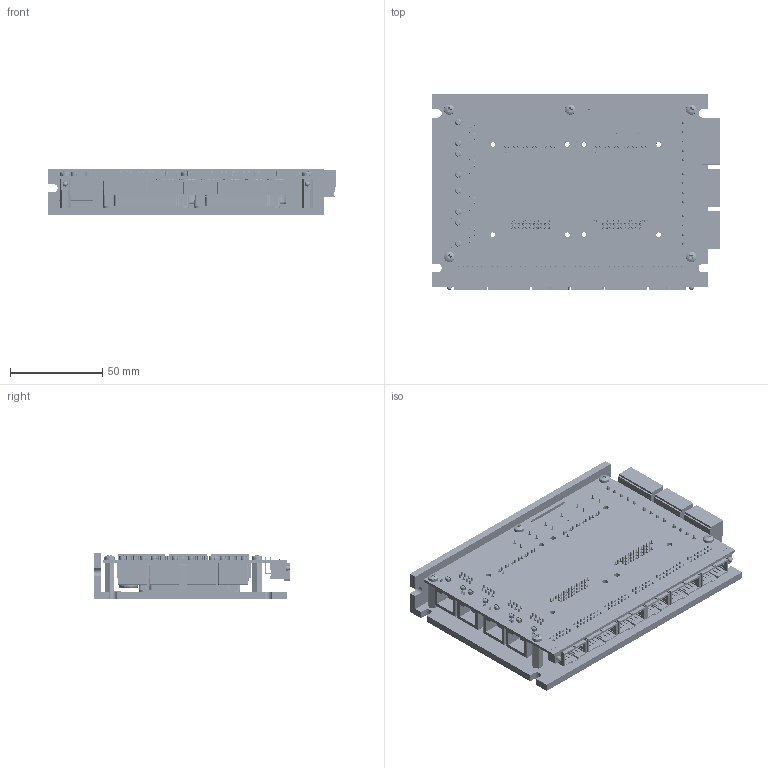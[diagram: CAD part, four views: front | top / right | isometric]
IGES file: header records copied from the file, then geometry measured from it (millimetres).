
Start section: SolidWorks IGES file using analytic representation for surfaces
Global section: file name: F:\ELMO\PRODUCTS\DUO\DRAWING\solid-parts\WHI-DUAL-BOARD\WHI-DUAL-BOARD-01.IGS; native system: SolidWorks 2007; preprocessor: SolidWorks 2007; author: shlomo; date: 070509.124155; units: millimetre
Bounding box: 156.41 x 106.44 x 25.4 mm (x, y, z)
Surface area: 130227.2 mm2 (no closed solid volume)
Topology: 0 solids, 0 shells, 6715 faces, 41850 edges, 41817 vertices
Faces by surface type: bspline 5293, revolution 1422
